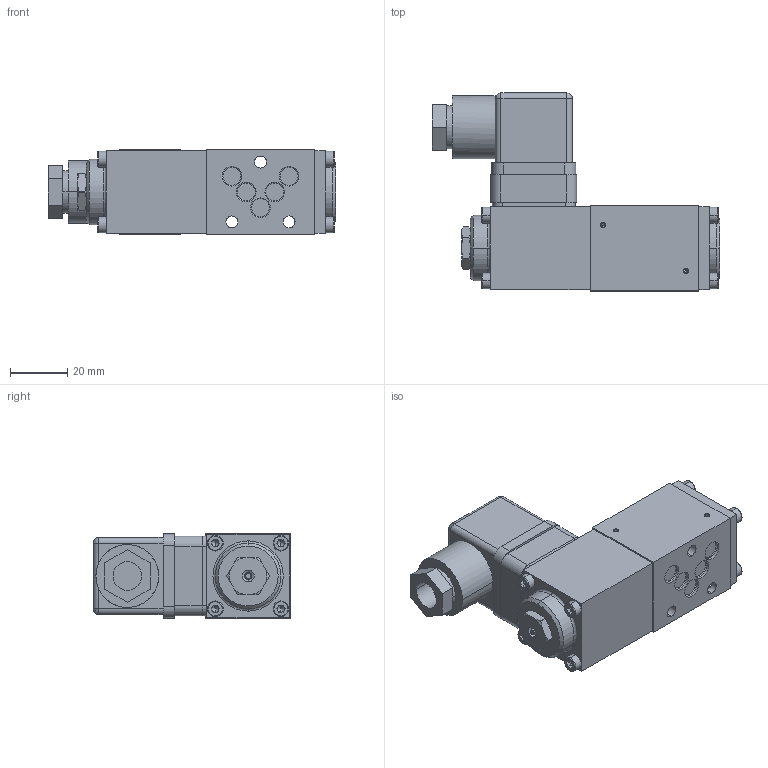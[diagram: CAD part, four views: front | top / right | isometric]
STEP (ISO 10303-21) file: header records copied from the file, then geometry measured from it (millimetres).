
FILE_DESCRIPTION (( 'STEP AP214' ), '1' );
FILE_NAME ('WDPFA03-4_2-Aside.STEP', '2017-03-07T13:56:57', ( '' ), ( '' ), 'SwSTEP 2.0', 'SolidWorks 2016', '' );
FILE_SCHEMA (( 'AUTOMOTIVE_DESIGN' ));
Length unit declared in the file: millimetre
Products named in the file (1): WDPFA03-4_2-Aside
Bounding box: 100.55 x 69.3 x 30 mm (x, y, z)
Volume: 100402.3 mm3; surface area: 31957.6 mm2
Topology: 8 solids, 25 shells, 1244 faces, 3436 edges, 2207 vertices
Faces by surface type: plane 735, cylinder 339, cone 91, torus 44, bspline 31, sphere 4
Entity records: 55074 total; most frequent: CARTESIAN_POINT 8949, DIRECTION 6852, ORIENTED_EDGE 6788, EDGE_CURVE 3394, AXIS2_PLACEMENT_3D 2362, VERTEX_POINT 2207, LINE 2128, VECTOR 2128
